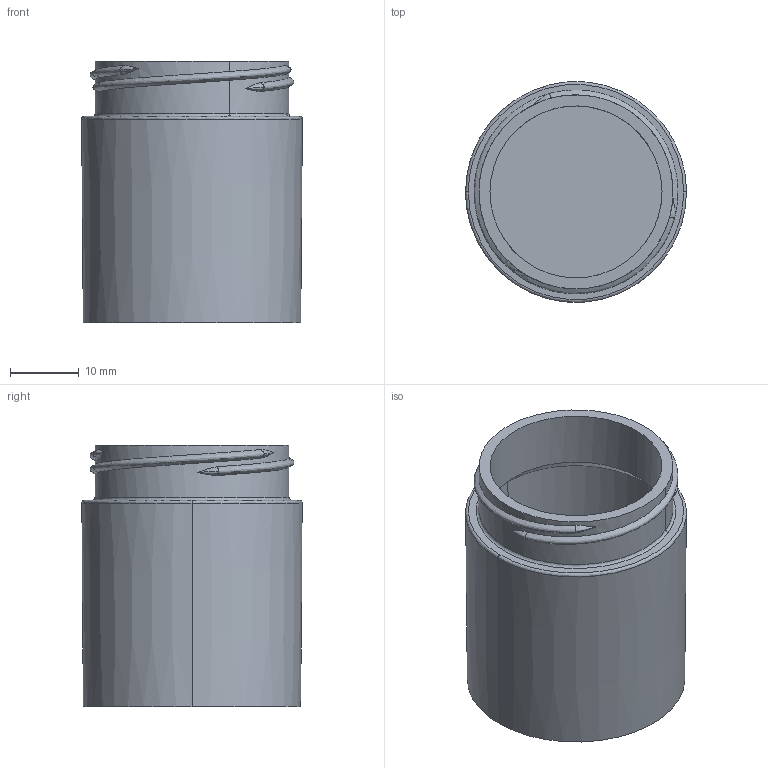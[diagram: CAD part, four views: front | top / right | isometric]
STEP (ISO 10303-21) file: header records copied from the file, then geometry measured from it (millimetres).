
FILE_DESCRIPTION(/* description */ (''),/* implementation_level */ '2;1');
FILE_NAME(/* name */ 'cap',/* time_stamp */ '2020-08-20T13:48:23+02:00',/* author */ (''),/* organization */ (''),/* preprocessor_version */ 'ST-DEVELOPER v16.5',/* originating_system */ '',/* authorisation */ '');
FILE_SCHEMA (('AUTOMOTIVE_DESIGN'));
Length unit declared in the file: millimetre
Products named in the file (1): Document
Bounding box: 32.1 x 32.04 x 38 mm (x, y, z)
Volume: 7805.9 mm3; surface area: 8648.1 mm2
Topology: 1 solids, 1 shells, 33 faces, 81 edges, 52 vertices
Faces by surface type: bspline 29, plane 4
Entity records: 3406 total; most frequent: CARTESIAN_POINT 2902, ORIENTED_EDGE 162, EDGE_CURVE 81, VERTEX_POINT 52, B_SPLINE_CURVE_WITH_KNOTS 45, EDGE_LOOP 35, ADVANCED_FACE 33, FACE_OUTER_BOUND 33
